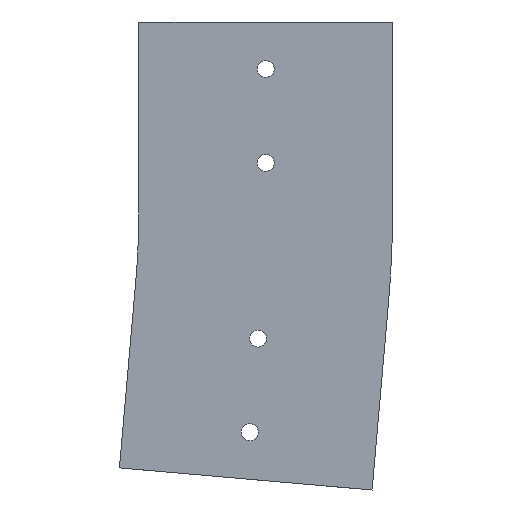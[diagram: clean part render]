
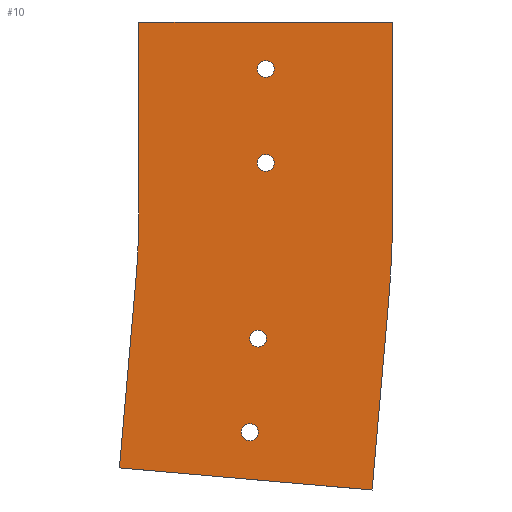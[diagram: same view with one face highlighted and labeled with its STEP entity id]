
A CAD part, left-side view. The second image highlights one B-rep face of the part: STEP entity #10.
In plain terms, the highlighted planar face has unit normal (-1, 0, 0).
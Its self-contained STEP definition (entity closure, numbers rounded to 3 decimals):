
#10 = ADVANCED_FACE ( 'NONE', ( #772, #642, #309, #111, #110 ), #2790, .T. ) ;
#110 = FACE_OUTER_BOUND ( 'NONE', #886, .T. ) ;
#111 = FACE_BOUND ( 'NONE', #700, .T. ) ;
#183 = CIRCLE ( 'NONE', #2259, 4.5 ) ;
#192 = CIRCLE ( 'NONE', #2589, 4.5 ) ;
#193 = CIRCLE ( 'NONE', #2548, 432.5 ) ;
#214 = CIRCLE ( 'NONE', #2588, 4.5 ) ;
#240 = EDGE_LOOP ( 'NONE', ( #757, #652 ) ) ;
#299 = ORIENTED_EDGE ( 'NONE', *, *, #2585, .T. ) ;
#309 = FACE_BOUND ( 'NONE', #754, .T. ) ;
#512 = ORIENTED_EDGE ( 'NONE', *, *, #2553, .F. ) ;
#530 = ORIENTED_EDGE ( 'NONE', *, *, #2563, .F. ) ;
#532 = ORIENTED_EDGE ( 'NONE', *, *, #2572, .F. ) ;
#533 = ORIENTED_EDGE ( 'NONE', *, *, #2264, .F. ) ;
#534 = ORIENTED_EDGE ( 'NONE', *, *, #2400, .F. ) ;
#540 = ORIENTED_EDGE ( 'NONE', *, *, #2396, .F. ) ;
#541 = ORIENTED_EDGE ( 'NONE', *, *, #2279, .F. ) ;
#545 = ORIENTED_EDGE ( 'NONE', *, *, #2265, .T. ) ;
#546 = ORIENTED_EDGE ( 'NONE', *, *, #2596, .T. ) ;
#548 = ORIENTED_EDGE ( 'NONE', *, *, #2280, .F. ) ;
#574 = CIRCLE ( 'NONE', #2513, 4.5 ) ;
#614 = ORIENTED_EDGE ( 'NONE', *, *, #2554, .F. ) ;
#642 = FACE_BOUND ( 'NONE', #813, .T. ) ;
#652 = ORIENTED_EDGE ( 'NONE', *, *, #2373, .F. ) ;
#700 = EDGE_LOOP ( 'NONE', ( #541, #534 ) ) ;
#754 = EDGE_LOOP ( 'NONE', ( #548, #540 ) ) ;
#757 = ORIENTED_EDGE ( 'NONE', *, *, #2273, .F. ) ;
#772 = FACE_BOUND ( 'NONE', #240, .T. ) ;
#783 = ORIENTED_EDGE ( 'NONE', *, *, #2415, .F. ) ;
#813 = EDGE_LOOP ( 'NONE', ( #533, #614 ) ) ;
#829 = ORIENTED_EDGE ( 'NONE', *, *, #2427, .T. ) ;
#858 = CIRCLE ( 'NONE', #2481, 4.5 ) ;
#886 = EDGE_LOOP ( 'NONE', ( #532, #530, #545, #546, #299, #512, #783, #829 ) ) ;
#918 = CIRCLE ( 'NONE', #2560, 4.5 ) ;
#930 = CIRCLE ( 'NONE', #2491, 4.5 ) ;
#982 = CIRCLE ( 'NONE', #2808, 4.5 ) ;
#983 = VECTOR ( 'NONE', #2076, 1000. ) ;
#985 = LINE ( 'NONE', #2031, #983 ) ;
#1021 = VECTOR ( 'NONE', #2029, 1000. ) ;
#1022 = LINE ( 'NONE', #1955, #1021 ) ;
#1030 = VECTOR ( 'NONE', #2037, 1000. ) ;
#1032 = LINE ( 'NONE', #2036, #1030 ) ;
#1045 = VECTOR ( 'NONE', #1970, 1000. ) ;
#1046 = LINE ( 'NONE', #1969, #1045 ) ;
#1052 = VECTOR ( 'NONE', #2021, 1000. ) ;
#1053 = LINE ( 'NONE', #2008, #1052 ) ;
#1197 = CIRCLE ( 'NONE', #2591, 567.5 ) ;
#1210 = VECTOR ( 'NONE', #1694, 1000. ) ;
#1230 = LINE ( 'NONE', #1695, #1210 ) ;
#1296 = DIRECTION ( 'NONE',  ( 0., 0., 1. ) ) ;
#1404 = DIRECTION ( 'NONE',  ( -1., 0., 0. ) ) ;
#1405 = CARTESIAN_POINT ( 'NONE',  ( -43., 0., -75. ) ) ;
#1506 = DIRECTION ( 'NONE',  ( 0., 0., 1. ) ) ;
#1510 = DIRECTION ( 'NONE',  ( 0., 0., 1. ) ) ;
#1511 = DIRECTION ( 'NONE',  ( -1., 0., 0. ) ) ;
#1512 = CARTESIAN_POINT ( 'NONE',  ( -43., 4.082, -168.483 ) ) ;
#1515 = DIRECTION ( 'NONE',  ( -1., 0., 0. ) ) ;
#1516 = CARTESIAN_POINT ( 'NONE',  ( -43., 0., -25. ) ) ;
#1538 = DIRECTION ( 'NONE',  ( -1., 0., 0. ) ) ;
#1541 = DIRECTION ( 'NONE',  ( 0., 0., 1. ) ) ;
#1545 = CARTESIAN_POINT ( 'NONE',  ( -43., 0., -75. ) ) ;
#1571 = CARTESIAN_POINT ( 'NONE',  ( -43., 500., -100. ) ) ;
#1573 = DIRECTION ( 'NONE',  ( 1., 0., 0. ) ) ;
#1574 = DIRECTION ( 'NONE',  ( 0., 0., -1. ) ) ;
#1576 = DIRECTION ( 'NONE',  ( -1., 0., 0. ) ) ;
#1581 = DIRECTION ( 'NONE',  ( 0., 0., 1. ) ) ;
#1584 = CARTESIAN_POINT ( 'NONE',  ( -43., 8.439, -218.292 ) ) ;
#1694 = DIRECTION ( 'NONE',  ( 0., 0., 1. ) ) ;
#1695 = CARTESIAN_POINT ( 'NONE',  ( -43., -67.5, -100. ) ) ;
#1752 = DIRECTION ( 'NONE',  ( 0., 0., 1. ) ) ;
#1753 = DIRECTION ( 'NONE',  ( -1., 0., 0. ) ) ;
#1754 = CARTESIAN_POINT ( 'NONE',  ( -43., 0., -25. ) ) ;
#1762 = DIRECTION ( 'NONE',  ( 0., 0., 1. ) ) ;
#1764 = DIRECTION ( 'NONE',  ( -1., 0., 0. ) ) ;
#1765 = CARTESIAN_POINT ( 'NONE',  ( -43., 4.082, -168.483 ) ) ;
#1808 = DIRECTION ( 'NONE',  ( 0., 0., -1. ) ) ;
#1907 = CARTESIAN_POINT ( 'NONE',  ( -43., 8.439, -222.792 ) ) ;
#1909 = CARTESIAN_POINT ( 'NONE',  ( -43., -65.34, -149.461 ) ) ;
#1911 = DIRECTION ( 'NONE',  ( 1., 0., 0. ) ) ;
#1914 = CARTESIAN_POINT ( 'NONE',  ( -43., 500., -100. ) ) ;
#1951 = CARTESIAN_POINT ( 'NONE',  ( -43., 8.439, -218.292 ) ) ;
#1952 = DIRECTION ( 'NONE',  ( -1., 0., 0. ) ) ;
#1955 = CARTESIAN_POINT ( 'NONE',  ( -43., 67.5, -100. ) ) ;
#1969 = CARTESIAN_POINT ( 'NONE',  ( -43., 69.146, -137.695 ) ) ;
#1970 = DIRECTION ( 'NONE',  ( 0., 0.087, -0.996 ) ) ;
#1987 = CARTESIAN_POINT ( 'NONE',  ( -43., -56.625, -249.08 ) ) ;
#2008 = CARTESIAN_POINT ( 'NONE',  ( -43., -56.625, -249.08 ) ) ;
#2021 = DIRECTION ( 'NONE',  ( 0., -0.996, -0.087 ) ) ;
#2029 = DIRECTION ( 'NONE',  ( 0., 0., 1. ) ) ;
#2030 = DIRECTION ( 'NONE',  ( 0., 0., 1. ) ) ;
#2031 = CARTESIAN_POINT ( 'NONE',  ( -43., -65.34, -149.461 ) ) ;
#2036 = CARTESIAN_POINT ( 'NONE',  ( -43., -67.5, 0. ) ) ;
#2037 = DIRECTION ( 'NONE',  ( 0., -1., 0. ) ) ;
#2076 = DIRECTION ( 'NONE',  ( 0., 0.087, -0.996 ) ) ;
#2128 = CARTESIAN_POINT ( 'NONE',  ( -43., 69.146, -137.695 ) ) ;
#2141 = CARTESIAN_POINT ( 'NONE',  ( -43., 4.082, -163.983 ) ) ;
#2144 = CARTESIAN_POINT ( 'NONE',  ( -43., 0., -79.5 ) ) ;
#2145 = CARTESIAN_POINT ( 'NONE',  ( -43., 67.5, 0. ) ) ;
#2148 = CARTESIAN_POINT ( 'NONE',  ( -43., 8.439, -213.792 ) ) ;
#2192 = CARTESIAN_POINT ( 'NONE',  ( -43., 0., -70.5 ) ) ;
#2203 = CARTESIAN_POINT ( 'NONE',  ( -43., -67.5, 0. ) ) ;
#2209 = CARTESIAN_POINT ( 'NONE',  ( -43., 0., -29.5 ) ) ;
#2213 = CARTESIAN_POINT ( 'NONE',  ( -43., -67.5, -100. ) ) ;
#2230 = CARTESIAN_POINT ( 'NONE',  ( -43., 67.5, -100. ) ) ;
#2241 = CARTESIAN_POINT ( 'NONE',  ( -43., 77.861, -237.314 ) ) ;
#2247 = CARTESIAN_POINT ( 'NONE',  ( -43., 4.082, -172.983 ) ) ;
#2252 = CARTESIAN_POINT ( 'NONE',  ( -43., 0., -20.5 ) ) ;
#2259 = AXIS2_PLACEMENT_3D ( 'NONE', #1584, #1576, #1581 ) ;
#2264 = EDGE_CURVE ( 'NONE', #2630, #2770, #183, .T. ) ;
#2265 = EDGE_CURVE ( 'NONE', #2712, #2610, #193, .T. ) ;
#2273 = EDGE_CURVE ( 'NONE', #2674, #2626, #858, .T. ) ;
#2279 = EDGE_CURVE ( 'NONE', #2725, #2691, #192, .T. ) ;
#2280 = EDGE_CURVE ( 'NONE', #2623, #2728, #214, .T. ) ;
#2289 = AXIS2_PLACEMENT_3D ( 'NONE', #2791, #2792, #2788 ) ;
#2373 = EDGE_CURVE ( 'NONE', #2626, #2674, #930, .T. ) ;
#2396 = EDGE_CURVE ( 'NONE', #2728, #2623, #918, .T. ) ;
#2400 = EDGE_CURVE ( 'NONE', #2691, #2725, #574, .T. ) ;
#2415 = EDGE_CURVE ( 'NONE', #2695, #2772, #1197, .T. ) ;
#2427 = EDGE_CURVE ( 'NONE', #2695, #2685, #1230, .T. ) ;
#2481 = AXIS2_PLACEMENT_3D ( 'NONE', #1545, #1538, #1541 ) ;
#2491 = AXIS2_PLACEMENT_3D ( 'NONE', #1405, #1404, #1296 ) ;
#2513 = AXIS2_PLACEMENT_3D ( 'NONE', #1754, #1753, #1752 ) ;
#2548 = AXIS2_PLACEMENT_3D ( 'NONE', #1571, #1573, #1574 ) ;
#2553 = EDGE_CURVE ( 'NONE', #2772, #2765, #985, .T. ) ;
#2554 = EDGE_CURVE ( 'NONE', #2770, #2630, #982, .T. ) ;
#2560 = AXIS2_PLACEMENT_3D ( 'NONE', #1765, #1764, #1762 ) ;
#2563 = EDGE_CURVE ( 'NONE', #2712, #2627, #1022, .T. ) ;
#2572 = EDGE_CURVE ( 'NONE', #2627, #2685, #1032, .T. ) ;
#2585 = EDGE_CURVE ( 'NONE', #2733, #2765, #1053, .T. ) ;
#2588 = AXIS2_PLACEMENT_3D ( 'NONE', #1512, #1511, #1506 ) ;
#2589 = AXIS2_PLACEMENT_3D ( 'NONE', #1516, #1515, #1510 ) ;
#2591 = AXIS2_PLACEMENT_3D ( 'NONE', #1914, #1911, #1808 ) ;
#2596 = EDGE_CURVE ( 'NONE', #2610, #2733, #1046, .T. ) ;
#2610 = VERTEX_POINT ( 'NONE', #2128 ) ;
#2623 = VERTEX_POINT ( 'NONE', #2141 ) ;
#2626 = VERTEX_POINT ( 'NONE', #2144 ) ;
#2627 = VERTEX_POINT ( 'NONE', #2145 ) ;
#2630 = VERTEX_POINT ( 'NONE', #2148 ) ;
#2674 = VERTEX_POINT ( 'NONE', #2192 ) ;
#2685 = VERTEX_POINT ( 'NONE', #2203 ) ;
#2691 = VERTEX_POINT ( 'NONE', #2209 ) ;
#2695 = VERTEX_POINT ( 'NONE', #2213 ) ;
#2712 = VERTEX_POINT ( 'NONE', #2230 ) ;
#2725 = VERTEX_POINT ( 'NONE', #2252 ) ;
#2728 = VERTEX_POINT ( 'NONE', #2247 ) ;
#2733 = VERTEX_POINT ( 'NONE', #2241 ) ;
#2765 = VERTEX_POINT ( 'NONE', #1987 ) ;
#2770 = VERTEX_POINT ( 'NONE', #1907 ) ;
#2772 = VERTEX_POINT ( 'NONE', #1909 ) ;
#2788 = DIRECTION ( 'NONE',  ( 0., 0., 1. ) ) ;
#2790 = PLANE ( 'NONE',  #2289 ) ;
#2791 = CARTESIAN_POINT ( 'NONE',  ( -43., -67.5, -100. ) ) ;
#2792 = DIRECTION ( 'NONE',  ( -1., 0., 0. ) ) ;
#2808 = AXIS2_PLACEMENT_3D ( 'NONE', #1951, #1952, #2030 ) ;
